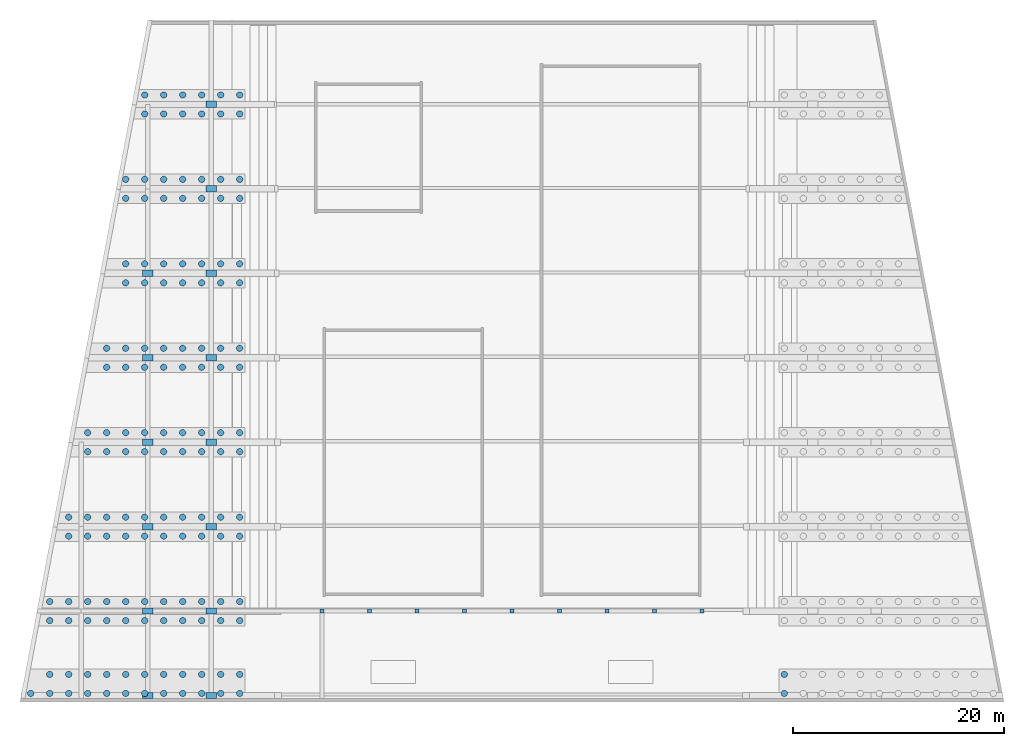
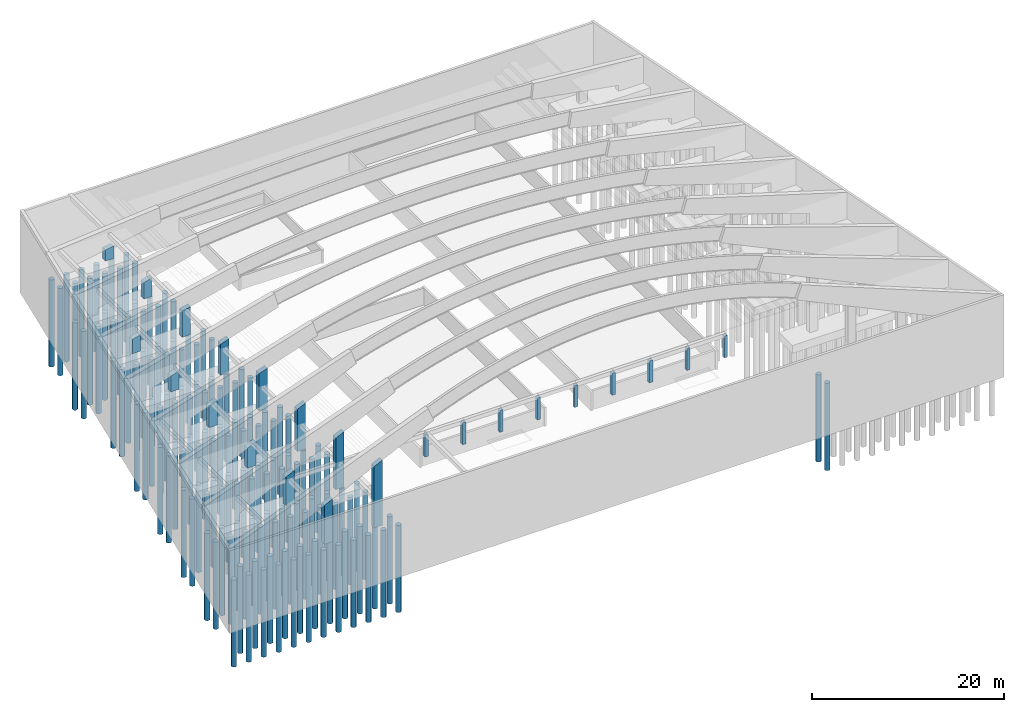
# One storey, part 1 of 10: 164 columns.
"""IFC2X3 building model written with IfcOpenShell, lengths in millimetres."""

from ifc_helpers import new_model, si_unit, derived_unit, direction, frame, frame_2d, origin, origin_2d_with_axis, place, context, subcontext, project, spatial, rectangle, circle, extrude, clip, halfspace, source, transform, mapped, material, type_object, type_shapes, element, save


model = new_model("IFC2X3")

# Units and contexts
model_context = context("Model", 3, precision=0.01, world=origin(), true_north=direction((6.12303176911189e-17, 1.0)))
body_context = subcontext(model_context, "Body", "Model", "MODEL_VIEW")
ifc_project = project(units=[si_unit("LENGTHUNIT", "METRE", prefix="MILLI"), si_unit("AREAUNIT", "SQUARE_METRE"), si_unit("VOLUMEUNIT", "CUBIC_METRE"), si_unit("PLANEANGLEUNIT", "RADIAN"), si_unit("MASSUNIT", "GRAM", prefix="KILO"), derived_unit("MASSDENSITYUNIT", [(si_unit("MASSUNIT", "GRAM", prefix="KILO"), 1), (si_unit("LENGTHUNIT", "METRE"), -3)]), si_unit("TIMEUNIT", "SECOND"), si_unit("FREQUENCYUNIT", "HERTZ"), si_unit("THERMODYNAMICTEMPERATUREUNIT", "DEGREE_CELSIUS"), derived_unit("THERMALTRANSMITTANCEUNIT", [(si_unit("MASSUNIT", "GRAM", prefix="KILO"), 1), (si_unit("THERMODYNAMICTEMPERATUREUNIT", "KELVIN"), -1), (si_unit("TIMEUNIT", "SECOND"), -3)]), derived_unit("VOLUMETRICFLOWRATEUNIT", [(si_unit("LENGTHUNIT", "METRE"), 3), (si_unit("TIMEUNIT", "SECOND"), -1)]), si_unit("ELECTRICCURRENTUNIT", "AMPERE"), si_unit("ELECTRICVOLTAGEUNIT", "VOLT"), si_unit("POWERUNIT", "WATT"), si_unit("FORCEUNIT", "NEWTON", prefix="KILO"), si_unit("ILLUMINANCEUNIT", "LUX"), si_unit("LUMINOUSFLUXUNIT", "LUMEN"), si_unit("LUMINOUSINTENSITYUNIT", "CANDELA"), derived_unit("USERDEFINED", [(si_unit("MASSUNIT", "GRAM", prefix="KILO"), -1), (si_unit("LENGTHUNIT", "METRE"), -2), (si_unit("TIMEUNIT", "SECOND"), 3), (si_unit("LUMINOUSFLUXUNIT", "LUMEN"), 1)]), derived_unit("LINEARVELOCITYUNIT", [(si_unit("LENGTHUNIT", "METRE"), 1), (si_unit("TIMEUNIT", "SECOND"), -1)]), si_unit("PRESSUREUNIT", "PASCAL"), derived_unit("USERDEFINED", [(si_unit("LENGTHUNIT", "METRE"), -2), (si_unit("MASSUNIT", "GRAM", prefix="KILO"), 1), (si_unit("TIMEUNIT", "SECOND"), -2)])], contexts=[model_context])

# Site, building, storey
site_placement = place(None, origin())
site = spatial("IfcSite", under=ifc_project, at=site_placement, Name="Default", CompositionType="ELEMENT")
building_placement = place(site_placement, origin())
building = spatial("IfcBuilding", under=site, at=building_placement, CompositionType="ELEMENT")
storey_placement = place(building_placement, origin())
storey = spatial("IfcBuildingStorey", under=building, at=storey_placement, Name="Default", CompositionType="ELEMENT", Elevation=0.0)

# Columns
ifc_material_1 = material(Name="CONCRETE/28MPa 117")
column_type_1 = type_object("IfcColumnType", Name="PILOTE", PredefinedType="COLUMN")
shared_shape_1 = source(origin(), body_context, "Body", "SweptSolid", [
    extrude(circle(Radius=300.000000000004, at=origin_2d_with_axis()), frame((106808.86, 68802.3654658, -15300.0), z_axis=(0.0, 0.0, 1.0), x_axis=(-1.0, 0.0, 0.0)), (0.0, 0.0, 1.0), 11100.0),
])
type_shapes(column_type_1, [shared_shape_1])
column_1_placement = place(building_placement, origin())
element("IfcColumn", 1, at=column_1_placement, inside=storey, type_object=column_type_1, material=ifc_material_1, Name="PILOTE 1120:PILOTE 1120", ObjectType="PILOTE 1120:PILOTE 1120", context=body_context, shape_type="MappedRepresentation", body=[
    mapped(shared_shape_1, transform((0.0, 0.0, 0.0), scale=1.0)),
])
column_type_2 = type_object("IfcColumnType", Name="PILOTE", PredefinedType="COLUMN")
shared_shape_2 = source(origin(), body_context, "Body", "SweptSolid", [
    extrude(circle(Radius=300.000000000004, at=origin_2d_with_axis()), frame((106808.86, 67002.3654658, -15300.0), z_axis=(0.0, 0.0, 1.0), x_axis=(-1.0, 0.0, 0.0)), (0.0, 0.0, 1.0), 11100.0),
])
type_shapes(column_type_2, [shared_shape_2])
column_2_placement = place(building_placement, origin())
element("IfcColumn", 2, at=column_2_placement, inside=storey, type_object=column_type_2, material=ifc_material_1, Name="PILOTE 1138:PILOTE 1138", ObjectType="PILOTE 1138:PILOTE 1138", context=body_context, shape_type="MappedRepresentation", body=[
    mapped(shared_shape_2, transform((0.0, 0.0, 0.0), scale=1.0)),
])
column_type_3 = type_object("IfcColumnType", Name="COLUMNA", PredefinedType="COLUMN")
shared_shape_3 = source(origin(), body_context, "Body", "Clipping", [
    clip(extrude(rectangle(XDim=600.000000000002, YDim=1000.00000000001, at=frame_2d((0.0, -4.32009983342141e-12), x_axis=(1.0, 0.0))), frame((52508.8569215, 122806.322644, -3299.9973373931), z_axis=(0.0, 0.0, 1.0), x_axis=(0.0, -1.0, 0.0)), (0.0, 0.0, 1.0), 1571.22462598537), halfspace(frame((54752.2040968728, 125068.544011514, -1423.55654824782), z_axis=(-0.172451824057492, 0.0, 0.985017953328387), x_axis=(0.985017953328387, 0.0, 0.172451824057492)), False)),
])
type_shapes(column_type_3, [shared_shape_3])
column_3_placement = place(building_placement, origin())
element("IfcColumn", 3, at=column_3_placement, inside=storey, type_object=column_type_3, Name="COLUMNA 5091:COLUMNA 5091", ObjectType="COLUMNA 5091:COLUMNA 5091", context=body_context, shape_type="MappedRepresentation", body=[
    mapped(shared_shape_3, transform((0.0, 0.0, 0.0), scale=1.0)),
])
column_type_4 = type_object("IfcColumnType", Name="COLUMNA", PredefinedType="COLUMN")
shared_shape_4 = source(origin(), body_context, "Body", "Clipping", [
    clip(extrude(rectangle(XDim=600.000000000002, YDim=1000.00000000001, at=frame_2d((0.0, -4.32009983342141e-12), x_axis=(1.0, 0.0))), frame((52508.8569215, 114806.322644, -3300.00486799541), z_axis=(0.0, 0.0, 1.0), x_axis=(0.0, -1.0, 0.0)), (0.0, 0.0, 1.0), 2372.99282852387), halfspace(frame((55402.4906379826, 117756.291940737, -339.532235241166), z_axis=(-0.238360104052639, 0.0, 0.971176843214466), x_axis=(0.971176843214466, 0.0, 0.238360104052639)), False)),
])
type_shapes(column_type_4, [shared_shape_4])
column_4_placement = place(building_placement, origin())
element("IfcColumn", 4, at=column_4_placement, inside=storey, type_object=column_type_4, Name="COLUMNA 5110:COLUMNA 5110", ObjectType="COLUMNA 5110:COLUMNA 5110", context=body_context, shape_type="MappedRepresentation", body=[
    mapped(shared_shape_4, transform((0.0, 0.0, 0.0), scale=1.0)),
])
column_type_5 = type_object("IfcColumnType", Name="COLUMNA", PredefinedType="COLUMN")
shared_shape_5 = source(origin(), body_context, "Body", "Clipping", [
    clip(extrude(rectangle(XDim=600.000000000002, YDim=1000.00000000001, at=frame_2d((0.0, -4.32009983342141e-12), x_axis=(1.0, 0.0))), frame((52508.8569215, 66803.9483369, -3299.99743629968), z_axis=(0.0, 0.0, 1.0), x_axis=(0.0, -1.0, 0.0)), (0.0, 0.0, 1.0), 8287.73519920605), halfspace(frame((44764.3708742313, 58127.4147164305, 1071.93536075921), z_axis=(-0.429027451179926, 0.0, 0.903291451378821), x_axis=(0.0, 1.0, 0.0)), False)),
])
type_shapes(column_type_5, [shared_shape_5])
column_5_placement = place(building_placement, origin())
element("IfcColumn", 5, at=column_5_placement, inside=storey, type_object=column_type_5, Name="COLUMNA 5129:COLUMNA 5129", ObjectType="COLUMNA 5129:COLUMNA 5129", context=body_context, shape_type="MappedRepresentation", body=[
    mapped(shared_shape_5, transform((0.0, 0.0, 0.0), scale=1.0)),
])
column_type_6 = type_object("IfcColumnType", Name="COLUMNA", PredefinedType="COLUMN")
shared_shape_6 = source(origin(), body_context, "Body", "Clipping", [
    clip(extrude(rectangle(XDim=599.999999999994, YDim=1000.00000000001, at=frame_2d((-4.32009983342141e-12, -4.32009983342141e-12), x_axis=(1.0, 0.0))), frame((52508.8569215, 74803.9483369, -3300.00048833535), z_axis=(0.0, 0.0, 1.0), x_axis=(0.0, -1.0, 0.0)), (0.0, 0.0, 1.0), 7054.30517495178), halfspace(frame((45865.7904006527, 67346.7548478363, 361.632677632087), z_axis=(-0.429027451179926, 0.0, 0.903291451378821), x_axis=(0.0, 1.0, 0.0)), False)),
])
type_shapes(column_type_6, [shared_shape_6])
column_6_placement = place(building_placement, origin())
element("IfcColumn", 6, at=column_6_placement, inside=storey, type_object=column_type_6, Name="COLUMNA 5144:COLUMNA 5144", ObjectType="COLUMNA 5144:COLUMNA 5144", context=body_context, shape_type="MappedRepresentation", body=[
    mapped(shared_shape_6, transform((0.0, 0.0, 0.0), scale=1.0)),
])
column_type_7 = type_object("IfcColumnType", Name="COLUMNA", PredefinedType="COLUMN")
shared_shape_7 = source(origin(), body_context, "Body", "Clipping", [
    clip(extrude(rectangle(XDim=600.000000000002, YDim=1000.00000000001, at=frame_2d((0.0, -4.32009983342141e-12), x_axis=(1.0, 0.0))), frame((52508.8569215, 106806.322644, -3299.99533495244), z_axis=(0.0, 0.0, 1.0), x_axis=(0.0, -1.0, 0.0)), (0.0, 0.0, 1.0), 3561.72282091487), halfspace(frame((48600.6440987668, 102752.574431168, -820.205829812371), z_axis=(-0.238361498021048, 0.0, 0.971176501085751), x_axis=(0.0, 1.0, 0.0)), False)),
])
type_shapes(column_type_7, [shared_shape_7])
column_7_placement = place(building_placement, origin())
element("IfcColumn", 7, at=column_7_placement, inside=storey, type_object=column_type_7, Name="COLUMNA 5165:COLUMNA 5165", ObjectType="COLUMNA 5165:COLUMNA 5165", context=body_context, shape_type="MappedRepresentation", body=[
    mapped(shared_shape_7, transform((0.0, 0.0, 0.0), scale=1.0)),
])
column_type_8 = type_object("IfcColumnType", Name="COLUMNA", PredefinedType="COLUMN")
shared_shape_8 = source(origin(), body_context, "Body", "Clipping", [
    clip(extrude(rectangle(XDim=600.000000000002, YDim=1000.00000000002, at=frame_2d((0.0, -8.64019966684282e-12), x_axis=(1.0, 0.0))), frame((52508.8569215, 98805.531208, -3300.00047949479), z_axis=(0.0, 0.0, 1.0), x_axis=(0.0, -1.0, 0.0)), (0.0, 0.0, 1.0), 4305.93902329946), halfspace(frame((48025.0200080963, 94038.0908119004, -619.765833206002), z_axis=(-0.310113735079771, 0.0, 0.95069946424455), x_axis=(0.0, 1.0, 0.0)), False)),
])
type_shapes(column_type_8, [shared_shape_8])
column_8_placement = place(building_placement, origin())
element("IfcColumn", 8, at=column_8_placement, inside=storey, type_object=column_type_8, Name="COLUMNA 5184:COLUMNA 5184", ObjectType="COLUMNA 5184:COLUMNA 5184", context=body_context, shape_type="MappedRepresentation", body=[
    mapped(shared_shape_8, transform((0.0, 0.0, 0.0), scale=1.0)),
])
column_type_9 = type_object("IfcColumnType", Name="COLUMNA", PredefinedType="COLUMN")
shared_shape_9 = source(origin(), body_context, "Body", "Clipping", [
    clip(extrude(rectangle(XDim=599.999999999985, YDim=1000.00000000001, at=frame_2d((-8.64019966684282e-12, 0.0), x_axis=(1.0, 0.0))), frame((52508.8569215, 90804.7397724, -3000.00357002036), z_axis=(0.0, 0.0, 1.0), x_axis=(0.0, -1.0, 0.0)), (0.0, 0.0, 1.0), 5113.610604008), halfspace(frame((47301.344255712, 85253.3890874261, 185.157229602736), z_axis=(-0.320101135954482, 0.0, 0.947383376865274), x_axis=(0.0, 1.0, 0.0)), False)),
])
type_shapes(column_type_9, [shared_shape_9])
column_9_placement = place(building_placement, origin())
element("IfcColumn", 9, at=column_9_placement, inside=storey, type_object=column_type_9, Name="COLUMNA 5203:COLUMNA 5203", ObjectType="COLUMNA 5203:COLUMNA 5203", context=body_context, shape_type="MappedRepresentation", body=[
    mapped(shared_shape_9, transform((0.0, 0.0, 0.0), scale=1.0)),
])
column_type_10 = type_object("IfcColumnType", Name="COLUMNA", PredefinedType="COLUMN")
shared_shape_10 = source(origin(), body_context, "Body", "Clipping", [
    clip(extrude(rectangle(XDim=600.000000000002, YDim=1000.00000000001, at=frame_2d((0.0, 4.32009983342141e-12), x_axis=(1.0, 0.0))), frame((52508.8569215, 82803.9483369, -3300.00170111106), z_axis=(0.0, 0.0, 1.0), x_axis=(0.0, -1.0, 0.0)), (0.0, 0.0, 1.0), 5865.56521391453), halfspace(frame((46922.3555549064, 76516.4466191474, -325.264238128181), z_axis=(-0.429025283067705, 0.0, 0.903292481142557), x_axis=(0.0, 1.0, 0.0)), False)),
])
type_shapes(column_type_10, [shared_shape_10])
column_10_placement = place(building_placement, origin())
element("IfcColumn", 10, at=column_10_placement, inside=storey, type_object=column_type_10, Name="COLUMNA 5224:COLUMNA 5224", ObjectType="COLUMNA 5224:COLUMNA 5224", context=body_context, shape_type="MappedRepresentation", body=[
    mapped(shared_shape_10, transform((0.0, 0.0, 0.0), scale=1.0)),
])
column_type_11 = type_object("IfcColumnType", Name="COLUMNA", PredefinedType="COLUMN")
shared_shape_11 = source(origin(), body_context, "Body", "Clipping", [
    clip(extrude(rectangle(XDim=600.000000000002, YDim=1000.00000000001, at=frame_2d((0.0, 4.32009983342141e-12), x_axis=(1.0, 0.0))), frame((46508.8569215, 66803.9483369, -3299.99943747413), z_axis=(0.0, 0.0, 1.0), x_axis=(0.0, -1.0, 0.0)), (0.0, 0.0, 1.0), 5437.98524195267), halfspace(frame((41300.5993622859, 60935.2003743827, -573.160310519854), z_axis=(-0.429021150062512, 0.0, 0.903294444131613), x_axis=(0.0, 1.0, 0.0)), False)),
])
type_shapes(column_type_11, [shared_shape_11])
column_11_placement = place(building_placement, origin())
element("IfcColumn", 11, at=column_11_placement, inside=storey, type_object=column_type_11, Name="COLUMNA 5244:COLUMNA 5244", ObjectType="COLUMNA 5244:COLUMNA 5244", context=body_context, shape_type="MappedRepresentation", body=[
    mapped(shared_shape_11, transform((0.0, 0.0, 0.0), scale=1.0)),
])
column_type_12 = type_object("IfcColumnType", Name="COLUMNA", PredefinedType="COLUMN")
shared_shape_12 = source(origin(), body_context, "Body", "Clipping", [
    clip(extrude(rectangle(XDim=599.999999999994, YDim=999.999999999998, at=frame_2d((-4.32009983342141e-12, 4.32009983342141e-12), x_axis=(1.0, 0.0))), frame((46508.8569215, 74803.9483369, -3299.99618745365), z_axis=(0.0, 0.0, 1.0), x_axis=(0.0, -1.0, 0.0)), (0.0, 0.0, 1.0), 4204.55438198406), halfspace(frame((42383.0927364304, 70133.5716252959, -1292.48188975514), z_axis=(-0.429025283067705, 0.0, 0.903292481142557), x_axis=(0.0, 1.0, 0.0)), False)),
])
type_shapes(column_type_12, [shared_shape_12])
column_12_placement = place(building_placement, origin())
element("IfcColumn", 12, at=column_12_placement, inside=storey, type_object=column_type_12, Name="COLUMNA 5262:COLUMNA 5262", ObjectType="COLUMNA 5262:COLUMNA 5262", context=body_context, shape_type="MappedRepresentation", body=[
    mapped(shared_shape_12, transform((0.0, 0.0, 0.0), scale=1.0)),
])
column_type_13 = type_object("IfcColumnType", Name="COLUMNA", PredefinedType="COLUMN")
shared_shape_13 = source(origin(), body_context, "Body", "Clipping", [
    clip(extrude(rectangle(XDim=600.000000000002, YDim=1000.00000000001, at=frame_2d((0.0, 4.32009983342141e-12), x_axis=(1.0, 0.0))), frame((46508.7086931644, 106806.322644, -3299.99618786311), z_axis=(0.0, 0.0, 1.0), x_axis=(0.0, -1.0, 0.0)), (0.0, 0.0, 1.0), 2089.15629506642), halfspace(frame((49158.1533131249, 109504.869291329, -683.120657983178), z_axis=(-0.238433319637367, 0.0, 0.971158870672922), x_axis=(0.971158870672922, 0.0, 0.238433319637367)), False)),
])
type_shapes(column_type_13, [shared_shape_13])
column_13_placement = place(building_placement, origin())
element("IfcColumn", 13, at=column_13_placement, inside=storey, type_object=column_type_13, Name="COLUMNA 5800:COLUMNA 5800", ObjectType="COLUMNA 5800:COLUMNA 5800", context=body_context, shape_type="MappedRepresentation", body=[
    mapped(shared_shape_13, transform((0.0, 0.0, 0.0), scale=1.0)),
])
column_type_14 = type_object("IfcColumnType", Name="COLUMNA", PredefinedType="COLUMN")
shared_shape_14 = source(origin(), body_context, "Body", "Clipping", [
    clip(extrude(rectangle(XDim=600.000000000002, YDim=999.999999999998, at=frame_2d((0.0, 4.32009983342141e-12), x_axis=(1.0, 0.0))), frame((46508.8569215, 98805.531208, -3300.00248837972), z_axis=(0.0, 0.0, 1.0), x_axis=(0.0, -1.0, 0.0)), (0.0, 0.0, 1.0), 2348.77903334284), halfspace(frame((49341.6608463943, 101734.150403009, -190.27837119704), z_axis=(-0.310112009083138, 0.0, 0.950700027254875), x_axis=(0.950700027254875, 0.0, 0.310112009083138)), False)),
])
type_shapes(column_type_14, [shared_shape_14])
column_14_placement = place(building_placement, origin())
element("IfcColumn", 14, at=column_14_placement, inside=storey, type_object=column_type_14, Name="COLUMNA 5822:COLUMNA 5822", ObjectType="COLUMNA 5822:COLUMNA 5822", context=body_context, shape_type="MappedRepresentation", body=[
    mapped(shared_shape_14, transform((0.0, 0.0, 0.0), scale=1.0)),
])
column_type_15 = type_object("IfcColumnType", Name="COLUMNA", PredefinedType="COLUMN")
shared_shape_15 = source(origin(), body_context, "Body", "Clipping", [
    clip(extrude(rectangle(XDim=599.999999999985, YDim=999.999999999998, at=frame_2d((-8.64019966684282e-12, 0.0), x_axis=(1.0, 0.0))), frame((46508.8569215, 90804.7397724, -2999.99627784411), z_axis=(0.0, 0.0, 1.0), x_axis=(0.0, -1.0, 0.0)), (0.0, 0.0, 1.0), 3086.340604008), halfspace(frame((43144.6230263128, 87199.0415187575, -1219.29992477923), z_axis=(-0.320101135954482, 0.0, 0.947383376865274), x_axis=(0.0, 1.0, 0.0)), False)),
])
type_shapes(column_type_15, [shared_shape_15])
column_15_placement = place(building_placement, origin())
element("IfcColumn", 15, at=column_15_placement, inside=storey, type_object=column_type_15, Name="COLUMNA 5844:COLUMNA 5844", ObjectType="COLUMNA 5844:COLUMNA 5844", context=body_context, shape_type="MappedRepresentation", body=[
    mapped(shared_shape_15, transform((0.0, 0.0, 0.0), scale=1.0)),
])
column_type_16 = type_object("IfcColumnType", Name="COLUMNA", PredefinedType="COLUMN")
shared_shape_16 = source(origin(), body_context, "Body", "Clipping", [
    clip(extrude(rectangle(XDim=600.000000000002, YDim=999.999999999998, at=frame_2d((0.0, 4.32009983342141e-12), x_axis=(1.0, 0.0))), frame((46508.8569215, 82803.9483369, -3300.00500397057), z_axis=(0.0, 0.0, 1.0), x_axis=(0.0, -1.0, 0.0)), (0.0, 0.0, 1.0), 3015.82521391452), halfspace(frame((43403.7327141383, 79263.4828350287, -1996.45955087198), z_axis=(-0.429025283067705, 0.0, 0.903292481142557), x_axis=(0.0, 1.0, 0.0)), False)),
])
type_shapes(column_type_16, [shared_shape_16])
column_16_placement = place(building_placement, origin())
element("IfcColumn", 16, at=column_16_placement, inside=storey, type_object=column_type_16, Name="COLUMNA 5866:COLUMNA 5866", ObjectType="COLUMNA 5866:COLUMNA 5866", context=body_context, shape_type="MappedRepresentation", body=[
    mapped(shared_shape_16, transform((0.0, 0.0, 0.0), scale=1.0)),
])
ifc_material_2 = material(Name="CONCRETE/28MPa 1864")
column_type_17 = type_object("IfcColumnType", Name="400*400", PredefinedType="COLUMN")
shared_shape_17 = source(origin(), body_context, "Body", "SweptSolid", [
    extrude(rectangle(XDim=400.0, YDim=400.0, at=origin_2d_with_axis()), frame((0.0, 0.0, -3000.0), z_axis=(0.0, 0.0, 1.0), x_axis=(0.0, -1.0, 0.0)), (0.0, 0.0, 1.0), 2800.0),
])
type_shapes(column_type_17, [shared_shape_17])
for number, where, z_axis, x_axis in (
    (17, (85508.8569215, 74803.1569014, 0.0), (0.0, 0.0, 1.0), (0.0, 1.0, 0.0)),
    (18, (99008.8569215, 74803.1569014, 0.0), (0.0, 0.0, 1.0), (0.0, 1.0, 0.0)),
    (19, (63008.8569215, 74803.1569014, 0.0), (0.0, 0.0, 1.0), (0.0, 1.0, 0.0)),
    (20, (67508.8569215, 74803.1569014, 0.0), (0.0, 0.0, 1.0), (0.0, 1.0, 0.0)),
    (21, (72008.8569215, 74803.1569014, 0.0), (0.0, 0.0, 1.0), (0.0, 1.0, 0.0)),
    (22, (76508.8569215, 74803.1569014, 0.0), (0.0, 0.0, 1.0), (0.0, 1.0, 0.0)),
    (23, (94508.8569215, 74803.1569014, 0.0), (0.0, 0.0, 1.0), (0.0, 1.0, 0.0)),
    (24, (81008.8569215, 74803.1569014, 0.0), (0.0, 0.0, 1.0), (0.0, 1.0, 0.0)),
    (25, (90008.8569215, 74803.1569014, 0.0), (0.0, 0.0, 1.0), (0.0, 1.0, 0.0)),
):
    element("IfcColumn", number, at=place(storey_placement, frame(where, z_axis=z_axis, x_axis=x_axis)), inside=storey, type_object=column_type_17, material=ifc_material_2, Name="400*400:400*400", ObjectType="400*400:400*400", context=body_context, shape_type="MappedRepresentation", body=[
        mapped(shared_shape_17, transform((0.0, 0.0, 0.0), scale=1.0)),
    ])
column_type_18 = type_object("IfcColumnType", Name="D600", PredefinedType="COLUMN")
shared_shape_18 = source(origin(), body_context, "Body", "SweptSolid", [
    extrude(circle(Radius=300.0, at=frame_2d((3.38395977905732e-14, 4.96684963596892e-13), x_axis=(1.0, 0.0))), frame((0.0, 0.0, -15300.0), z_axis=(0.0, 0.0, 1.0), x_axis=(0.0, -1.0, 0.0)), (0.0, 0.0, 1.0), 11100.0),
])
type_shapes(column_type_18, [shared_shape_18])
for number, where, z_axis, x_axis, name in (
    (26, (55208.86, 73902.3654658, 0.0), (0.0, 0.0, 1.0), (0.0, 1.0, 0.0), "D600:D600"),
    (27, (53408.86, 73902.3654658, 0.0), (0.0, 0.0, 1.0), (0.0, 1.0, 0.0), "D600:D600"),
    (28, (55208.86, 75702.3654658, 0.0), (0.0, 0.0, 1.0), (0.0, 1.0, 0.0), "D600:D600"),
    (29, (53408.86, 75702.3654658, 0.0), (0.0, 0.0, 1.0), (0.0, 1.0, 0.0), "D600:D600"),
    (30, (51608.86, 73902.3654658, 0.0), (0.0, 0.0, 1.0), (0.0, 1.0, 0.0), "D600:D600"),
    (31, (51608.86, 75702.3654658, 0.0), (0.0, 0.0, 1.0), (0.0, 1.0, 0.0), "D600:D600"),
    (32, (49808.86, 73902.3654658, 0.0), (0.0, 0.0, 1.0), (0.0, 1.0, 0.0), "D600:D600"),
    (33, (49808.86, 75702.3654658, 0.0), (0.0, 0.0, 1.0), (0.0, 1.0, 0.0), "D600:D600"),
    (34, (48008.86, 73902.3654658, 0.0), (0.0, 0.0, 1.0), (0.0, 1.0, 0.0), "D600:D600"),
    (35, (48008.86, 75702.3654658, 0.0), (0.0, 0.0, 1.0), (0.0, 1.0, 0.0), "D600:D600"),
    (36, (46208.86, 73902.3654658, 0.0), (0.0, 0.0, 1.0), (0.0, 1.0, 0.0), "D600:D600"),
    (37, (46208.86, 75702.3654658, 0.0), (0.0, 0.0, 1.0), (0.0, 1.0, 0.0), "D600:D600"),
    (38, (44408.86, 73902.3654658, 0.0), (0.0, 0.0, 1.0), (0.0, 1.0, 0.0), "D600:D600"),
    (39, (44408.86, 75702.3654658, 0.0), (0.0, 0.0, 1.0), (0.0, 1.0, 0.0), "D600:D600"),
    (40, (42608.86, 73902.3654658, 0.0), (0.0, 0.0, 1.0), (0.0, 1.0, 0.0), "D600:D600"),
    (41, (42608.86, 75702.3654658, 0.0), (0.0, 0.0, 1.0), (0.0, 1.0, 0.0), "D600:D600"),
    (42, (40808.86, 73902.3654658, 0.0), (0.0, 0.0, 1.0), (0.0, 1.0, 0.0), "D600:D600"),
    (43, (40808.86, 75702.3654658, 0.0), (0.0, 0.0, 1.0), (0.0, 1.0, 0.0), "D600:D600"),
    (44, (39008.86, 73902.3654658, 0.0), (0.0, 0.0, 1.0), (0.0, 1.0, 0.0), "D600:D600"),
    (45, (39008.86, 75702.3654658, 0.0), (0.0, 0.0, 1.0), (0.0, 1.0, 0.0), "D600:D600"),
    (46, (37208.86, 73902.3654658, 0.0), (0.0, 0.0, 1.0), (0.0, 1.0, 0.0), "D600:D600"),
    (47, (37208.86, 75702.3654658, 0.0), (0.0, 0.0, 1.0), (0.0, 1.0, 0.0), "D600:D600"),
    (48, (55208.86, 67002.3654658, 0.0), (0.0, 0.0, 1.0), (0.0, 1.0, 0.0), "D600:D600"),
    (49, (53408.86, 67002.3654658, 0.0), (0.0, 0.0, 1.0), (0.0, 1.0, 0.0), "D600:D600"),
    (50, (55208.86, 68802.3654658, 0.0), (0.0, 0.0, 1.0), (0.0, 1.0, 0.0), "D600:D600"),
    (51, (53408.86, 68802.3654658, 0.0), (0.0, 0.0, 1.0), (0.0, 1.0, 0.0), "D600:D600"),
    (52, (51608.86, 67002.3654658, 0.0), (0.0, 0.0, 1.0), (0.0, 1.0, 0.0), "D600:D600"),
    (53, (51608.86, 68802.3654658, 0.0), (0.0, 0.0, 1.0), (0.0, 1.0, 0.0), "D600:D600"),
    (54, (49808.86, 67002.3654658, 0.0), (0.0, 0.0, 1.0), (0.0, 1.0, 0.0), "D600:D600"),
    (55, (49808.86, 68802.3654658, 0.0), (0.0, 0.0, 1.0), (0.0, 1.0, 0.0), "D600:D600"),
    (56, (48008.86, 67002.3654658, 0.0), (0.0, 0.0, 1.0), (0.0, 1.0, 0.0), "D600:D600"),
    (57, (48008.86, 68802.3654658, 0.0), (0.0, 0.0, 1.0), (0.0, 1.0, 0.0), "D600:D600"),
    (58, (46208.86, 67002.3654658, 0.0), (0.0, 0.0, 1.0), (0.0, 1.0, 0.0), "D600:D600"),
    (59, (46208.86, 68802.3654658, 0.0), (0.0, 0.0, 1.0), (0.0, 1.0, 0.0), "D600:D600"),
    (60, (44408.86, 67002.3654658, 0.0), (0.0, 0.0, 1.0), (0.0, 1.0, 0.0), "D600:D600"),
    (61, (44408.86, 68802.3654658, 0.0), (0.0, 0.0, 1.0), (0.0, 1.0, 0.0), "D600:D600"),
    (62, (42608.86, 67002.3654658, 0.0), (0.0, 0.0, 1.0), (0.0, 1.0, 0.0), "D600:D600"),
    (63, (42608.86, 68802.3654658, 0.0), (0.0, 0.0, 1.0), (0.0, 1.0, 0.0), "D600:D600"),
    (64, (40808.86, 67002.3654658, 0.0), (0.0, 0.0, 1.0), (0.0, 1.0, 0.0), "D600:D600"),
    (65, (40808.86, 68802.3654658, 0.0), (0.0, 0.0, 1.0), (0.0, 1.0, 0.0), "D600:D600"),
    (66, (39008.86, 67002.3654658, 0.0), (0.0, 0.0, 1.0), (0.0, 1.0, 0.0), "D600:D600"),
    (67, (39008.86, 68802.3654658, 0.0), (0.0, 0.0, 1.0), (0.0, 1.0, 0.0), "D600:D600"),
    (68, (37208.86, 67002.3654658, 0.0), (0.0, 0.0, 1.0), (0.0, 1.0, 0.0), "D600:D600"),
    (69, (37208.86, 68802.3654658, 0.0), (0.0, 0.0, 1.0), (0.0, 1.0, 0.0), "D600:D600"),
    (70, (55208.86, 81902.3654658, 0.0), (0.0, 0.0, 1.0), (0.0, 1.0, 0.0), "D600:D600"),
    (71, (53408.86, 81902.3654658, 0.0), (0.0, 0.0, 1.0), (0.0, 1.0, 0.0), "D600:D600"),
    (72, (55208.86, 83702.3654658, 0.0), (0.0, 0.0, 1.0), (0.0, 1.0, 0.0), "D600:D600"),
    (73, (53408.86, 83702.3654658, 0.0), (0.0, 0.0, 1.0), (0.0, 1.0, 0.0), "D600:D600"),
    (74, (51608.86, 81902.3654658, 0.0), (0.0, 0.0, 1.0), (0.0, 1.0, 0.0), "D600:D600"),
    (75, (51608.86, 83702.3654658, 0.0), (0.0, 0.0, 1.0), (0.0, 1.0, 0.0), "D600:D600"),
    (76, (49808.86, 81902.3654658, 0.0), (0.0, 0.0, 1.0), (0.0, 1.0, 0.0), "D600:D600"),
    (77, (49808.86, 83702.3654658, 0.0), (0.0, 0.0, 1.0), (0.0, 1.0, 0.0), "D600:D600"),
    (78, (48008.86, 81902.3654658, 0.0), (0.0, 0.0, 1.0), (0.0, 1.0, 0.0), "D600:D600"),
    (79, (48008.86, 83702.3654658, 0.0), (0.0, 0.0, 1.0), (0.0, 1.0, 0.0), "D600:D600"),
    (80, (46208.86, 81902.3654658, 0.0), (0.0, 0.0, 1.0), (0.0, 1.0, 0.0), "D600:D600"),
    (81, (46208.86, 83702.3654658, 0.0), (0.0, 0.0, 1.0), (0.0, 1.0, 0.0), "D600:D600"),
    (82, (44408.86, 81902.3654658, 0.0), (0.0, 0.0, 1.0), (0.0, 1.0, 0.0), "D600:D600"),
    (83, (44408.86, 83702.3654658, 0.0), (0.0, 0.0, 1.0), (0.0, 1.0, 0.0), "D600:D600"),
    (84, (42608.86, 81902.3654658, 0.0), (0.0, 0.0, 1.0), (0.0, 1.0, 0.0), "D600:D600"),
    (85, (42608.86, 83702.3654658, 0.0), (0.0, 0.0, 1.0), (0.0, 1.0, 0.0), "D600:D600"),
    (86, (40808.86, 81902.3654658, 0.0), (0.0, 0.0, 1.0), (0.0, 1.0, 0.0), "D600:D600"),
    (87, (40808.86, 83702.3654658, 0.0), (0.0, 0.0, 1.0), (0.0, 1.0, 0.0), "D600:D600"),
    (88, (39008.86, 81902.3654658, 0.0), (0.0, 0.0, 1.0), (0.0, 1.0, 0.0), "D600:D600"),
    (89, (39008.86, 83702.3654658, 0.0), (0.0, 0.0, 1.0), (0.0, 1.0, 0.0), "D600:D600"),
    (90, (55208.86, 97902.3654658, 0.0), (0.0, 0.0, 1.0), (0.0, 1.0, 0.0), "D600:D600"),
    (91, (53408.86, 97902.3654658, 0.0), (0.0, 0.0, 1.0), (0.0, 1.0, 0.0), "D600:D600"),
    (92, (55208.86, 99702.3654658, 0.0), (0.0, 0.0, 1.0), (0.0, 1.0, 0.0), "D600:D600"),
    (93, (53408.86, 99702.3654658, 0.0), (0.0, 0.0, 1.0), (0.0, 1.0, 0.0), "D600:D600"),
    (94, (51608.86, 97902.3654658, 0.0), (0.0, 0.0, 1.0), (0.0, 1.0, 0.0), "D600:D600"),
    (95, (51608.86, 99702.3654658, 0.0), (0.0, 0.0, 1.0), (0.0, 1.0, 0.0), "D600:D600"),
    (96, (49808.86, 97902.3654658, 0.0), (0.0, 0.0, 1.0), (0.0, 1.0, 0.0), "D600:D600"),
    (97, (49808.86, 99702.3654658, 0.0), (0.0, 0.0, 1.0), (0.0, 1.0, 0.0), "D600:D600"),
    (98, (48008.86, 97902.3654658, 0.0), (0.0, 0.0, 1.0), (0.0, 1.0, 0.0), "D600:D600"),
    (99, (48008.86, 99702.3654658, 0.0), (0.0, 0.0, 1.0), (0.0, 1.0, 0.0), "D600:D600"),
    (100, (46208.86, 97902.3654658, 0.0), (0.0, 0.0, 1.0), (0.0, 1.0, 0.0), "D600:D600"),
    (101, (46208.86, 99702.3654658, 0.0), (0.0, 0.0, 1.0), (0.0, 1.0, 0.0), "D600:D600"),
    (102, (44408.86, 97902.3654658, 0.0), (0.0, 0.0, 1.0), (0.0, 1.0, 0.0), "D600:D600"),
    (103, (44408.86, 99702.3654658, 0.0), (0.0, 0.0, 1.0), (0.0, 1.0, 0.0), "D600:D600"),
    (104, (42608.86, 97902.3654658, 0.0), (0.0, 0.0, 1.0), (0.0, 1.0, 0.0), "D600:D600"),
    (105, (42608.86, 99702.3654658, 0.0), (0.0, 0.0, 1.0), (0.0, 1.0, 0.0), "D600:D600"),
    (106, (55208.86, 105902.3654658, 0.0), (0.0, 0.0, 1.0), (0.0, 1.0, 0.0), "D600:D600"),
    (107, (53408.86, 105902.3654658, 0.0), (0.0, 0.0, 1.0), (0.0, 1.0, 0.0), "D600:D600"),
    (108, (55208.86, 107702.3654658, 0.0), (0.0, 0.0, 1.0), (0.0, 1.0, 0.0), "D600:D600"),
    (109, (53408.86, 107702.3654658, 0.0), (0.0, 0.0, 1.0), (0.0, 1.0, 0.0), "D600:D600"),
    (110, (51608.86, 105902.3654658, 0.0), (0.0, 0.0, 1.0), (0.0, 1.0, 0.0), "D600:D600"),
    (111, (51608.86, 107702.3654658, 0.0), (0.0, 0.0, 1.0), (0.0, 1.0, 0.0), "D600:D600"),
    (112, (49808.86, 105902.3654658, 0.0), (0.0, 0.0, 1.0), (0.0, 1.0, 0.0), "D600:D600"),
    (113, (49808.86, 107702.3654658, 0.0), (0.0, 0.0, 1.0), (0.0, 1.0, 0.0), "D600:D600"),
    (114, (48008.86, 105902.3654658, 0.0), (0.0, 0.0, 1.0), (0.0, 1.0, 0.0), "D600:D600"),
    (115, (48008.86, 107702.3654658, 0.0), (0.0, 0.0, 1.0), (0.0, 1.0, 0.0), "D600:D600"),
    (116, (46208.86, 105902.3654658, 0.0), (0.0, 0.0, 1.0), (0.0, 1.0, 0.0), "D600:D600"),
    (117, (46208.86, 107702.3654658, 0.0), (0.0, 0.0, 1.0), (0.0, 1.0, 0.0), "D600:D600"),
    (118, (44408.86, 105902.3654658, 0.0), (0.0, 0.0, 1.0), (0.0, 1.0, 0.0), "D600:D600"),
    (119, (44408.86, 107702.3654658, 0.0), (0.0, 0.0, 1.0), (0.0, 1.0, 0.0), "D600:D600"),
    (120, (55208.86, 113902.3654658, 0.0), (0.0, 0.0, 1.0), (0.0, 1.0, 0.0), "D600:D600"),
    (121, (53408.86, 113902.3654658, 0.0), (0.0, 0.0, 1.0), (0.0, 1.0, 0.0), "D600:D600"),
    (122, (55208.86, 115702.3654658, 0.0), (0.0, 0.0, 1.0), (0.0, 1.0, 0.0), "D600:D600"),
    (123, (53408.86, 115702.3654658, 0.0), (0.0, 0.0, 1.0), (0.0, 1.0, 0.0), "D600:D600"),
    (124, (51608.86, 113902.3654658, 0.0), (0.0, 0.0, 1.0), (0.0, 1.0, 0.0), "D600:D600"),
    (125, (51608.86, 115702.3654658, 0.0), (0.0, 0.0, 1.0), (0.0, 1.0, 0.0), "D600:D600"),
    (126, (49808.86, 113902.3654658, 0.0), (0.0, 0.0, 1.0), (0.0, 1.0, 0.0), "D600:D600"),
    (127, (49808.86, 115702.3654658, 0.0), (0.0, 0.0, 1.0), (0.0, 1.0, 0.0), "D600:D600"),
    (128, (48008.86, 113902.3654658, 0.0), (0.0, 0.0, 1.0), (0.0, 1.0, 0.0), "D600:D600"),
    (129, (48008.86, 115702.3654658, 0.0), (0.0, 0.0, 1.0), (0.0, 1.0, 0.0), "D600:D600"),
    (130, (46208.86, 113902.3654658, 0.0), (0.0, 0.0, 1.0), (0.0, 1.0, 0.0), "D600:D600"),
    (131, (46208.86, 115702.3654658, 0.0), (0.0, 0.0, 1.0), (0.0, 1.0, 0.0), "D600:D600"),
    (132, (44408.86, 113902.3654658, 0.0), (0.0, 0.0, 1.0), (0.0, 1.0, 0.0), "D600:D600"),
    (133, (44408.86, 115702.3654658, 0.0), (0.0, 0.0, 1.0), (0.0, 1.0, 0.0), "D600:D600"),
    (134, (55208.86, 121902.3654658, 0.0), (0.0, 0.0, 1.0), (0.0, 1.0, 0.0), "D600:D600"),
    (135, (53408.86, 121902.3654658, 0.0), (0.0, 0.0, 1.0), (0.0, 1.0, 0.0), "D600:D600"),
    (136, (55208.86, 123702.3654658, 0.0), (0.0, 0.0, 1.0), (0.0, 1.0, 0.0), "D600:D600"),
    (137, (53408.86, 123702.3654658, 0.0), (0.0, 0.0, 1.0), (0.0, 1.0, 0.0), "D600:D600"),
    (138, (51608.86, 121902.3654658, 0.0), (0.0, 0.0, 1.0), (0.0, 1.0, 0.0), "D600:D600"),
    (139, (51608.86, 123702.3654658, 0.0), (0.0, 0.0, 1.0), (0.0, 1.0, 0.0), "D600:D600"),
    (140, (49808.86, 121902.3654658, 0.0), (0.0, 0.0, 1.0), (0.0, 1.0, 0.0), "D600:D600"),
    (141, (49808.86, 123702.3654658, 0.0), (0.0, 0.0, 1.0), (0.0, 1.0, 0.0), "D600:D600"),
    (142, (48008.86, 121902.3654658, 0.0), (0.0, 0.0, 1.0), (0.0, 1.0, 0.0), "D600:D600"),
    (143, (48008.86, 123702.3654658, 0.0), (0.0, 0.0, 1.0), (0.0, 1.0, 0.0), "D600:D600"),
    (144, (46208.86, 121902.3654658, 0.0), (0.0, 0.0, 1.0), (0.0, 1.0, 0.0), "D600:D600"),
    (145, (46208.86, 123702.3654658, 0.0), (0.0, 0.0, 1.0), (0.0, 1.0, 0.0), "D600:D600"),
    (146, (35408.86, 67002.3654658, 0.0), (0.0, 0.0, 1.0), (0.0, 1.0, 0.0), "D600:D600"),
    (147, (55208.86, 89902.3654658, 0.0), (0.0, 0.0, 1.0), (0.0, 1.0, 0.0), "D600:D600"),
    (148, (53408.86, 89902.3654658, 0.0), (0.0, 0.0, 1.0), (0.0, 1.0, 0.0), "D600:D600"),
    (149, (55208.86, 91702.3654658, 0.0), (0.0, 0.0, 1.0), (0.0, 1.0, 0.0), "D600:D600"),
    (150, (53408.86, 91702.3654658, 0.0), (0.0, 0.0, 1.0), (0.0, 1.0, 0.0), "D600:D600"),
    (151, (51608.86, 89902.3654658, 0.0), (0.0, 0.0, 1.0), (0.0, 1.0, 0.0), "D600:D600"),
    (152, (51608.86, 91702.3654658, 0.0), (0.0, 0.0, 1.0), (0.0, 1.0, 0.0), "D600:D600"),
    (153, (49808.86, 89902.3654658, 0.0), (0.0, 0.0, 1.0), (0.0, 1.0, 0.0), "D600:D600"),
    (154, (49808.86, 91702.3654658, 0.0), (0.0, 0.0, 1.0), (0.0, 1.0, 0.0), "D600:D600"),
    (155, (48008.86, 89902.3654658, 0.0), (0.0, 0.0, 1.0), (0.0, 1.0, 0.0), "D600:D600"),
    (156, (48008.86, 91702.3654658, 0.0), (0.0, 0.0, 1.0), (0.0, 1.0, 0.0), "D600:D600"),
    (157, (46208.86, 89902.3654658, 0.0), (0.0, 0.0, 1.0), (0.0, 1.0, 0.0), "D600:D600"),
    (158, (46208.86, 91702.3654658, 0.0), (0.0, 0.0, 1.0), (0.0, 1.0, 0.0), "D600:D600"),
    (159, (44408.86, 89902.3654658, 0.0), (0.0, 0.0, 1.0), (0.0, 1.0, 0.0), "D600:D600"),
    (160, (44408.86, 91702.3654658, 0.0), (0.0, 0.0, 1.0), (0.0, 1.0, 0.0), "D600:D600"),
    (161, (42608.86, 89902.3654658, 0.0), (0.0, 0.0, 1.0), (0.0, 1.0, 0.0), "D600:D600"),
    (162, (42608.86, 91702.3654658, 0.0), (0.0, 0.0, 1.0), (0.0, 1.0, 0.0), "D600:D600"),
    (163, (40808.86, 89902.3654658, 0.0), (0.0, 0.0, 1.0), (0.0, 1.0, 0.0), "D600:D600"),
    (164, (40808.86, 91702.3654658, 0.0), (0.0, 0.0, 1.0), (0.0, 1.0, 0.0), "D600:D600"),
):
    element("IfcColumn", number, at=place(storey_placement, frame(where, z_axis=z_axis, x_axis=x_axis)), inside=storey, type_object=column_type_18, material=ifc_material_1, Name=name, ObjectType="D600:D600", context=body_context, shape_type="MappedRepresentation", body=[
        mapped(shared_shape_18, transform((0.0, 0.0, 0.0), scale=1.0)),
    ])

save(model, "model.ifc")
